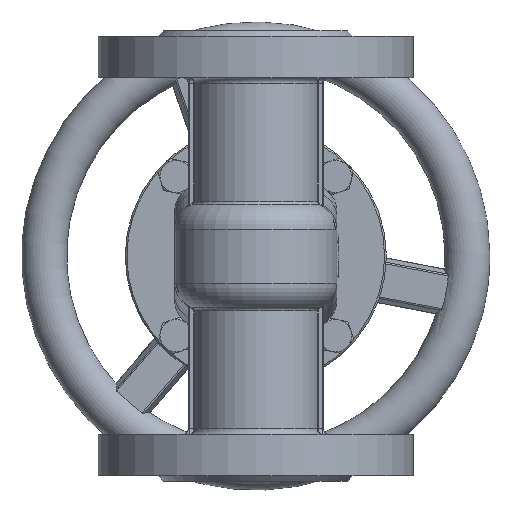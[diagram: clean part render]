
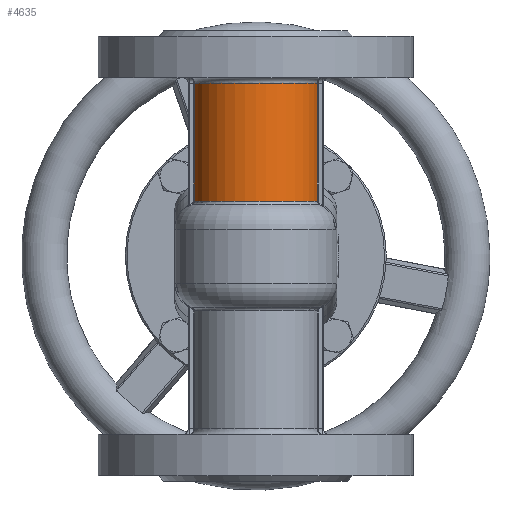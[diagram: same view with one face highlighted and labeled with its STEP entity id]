
A CAD part, front view. The second image highlights one B-rep face of the part: STEP entity #4635.
In plain terms, the highlighted cylindrical face has radius 35 mm (diameter 70 mm), a partial arc.
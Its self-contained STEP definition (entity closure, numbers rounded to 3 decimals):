
#4635=ADVANCED_FACE('',(#12416),#12418,.T.);
#12416=FACE_BOUND('',#12417,.T.);
#12417=EDGE_LOOP('',(#18521,#18522,#18523,#18524));
#12418=CYLINDRICAL_SURFACE('',#12419,35.);
#12419=AXIS2_PLACEMENT_3D('',#12420,#12421,#12422);
#12420=CARTESIAN_POINT('',(0.,0.,74.));
#12421=DIRECTION('',(0.,0.,1.));
#12422=DIRECTION('',(1.,0.,0.));
#18521=ORIENTED_EDGE('',*,*,#20491,.T.);
#18522=ORIENTED_EDGE('',*,*,#20492,.F.);
#18523=ORIENTED_EDGE('',*,*,#20353,.T.);
#18524=ORIENTED_EDGE('',*,*,#20493,.T.);
#20353=EDGE_CURVE('',#23141,#23143,#23145,.T.);
#20491=EDGE_CURVE('',#23358,#23359,#23360,.F.);
#20492=EDGE_CURVE('',#23141,#23359,#23361,.T.);
#20493=EDGE_CURVE('',#23143,#23358,#23362,.T.);
#23141=VERTEX_POINT('',#42386);
#23143=VERTEX_POINT('',#42403);
#23145=CIRCLE('',#42420,35.);
#23358=VERTEX_POINT('',#43820);
#23359=VERTEX_POINT('',#43821);
#23360=CIRCLE('',#43822,35.);
#23361=LINE('',#43826,#43827);
#23362=LINE('',#43829,#43830);
#42386=CARTESIAN_POINT('',(-34.1,-7.887,30.492));
#42403=CARTESIAN_POINT('',(34.1,-7.887,30.492));
#42420=AXIS2_PLACEMENT_3D('',#42421,#42422,#42423);
#42421=CARTESIAN_POINT('',(0.,0.,30.492));
#42422=DIRECTION('',(0.,0.,1.));
#42423=DIRECTION('',(-0.974,-0.225,0.));
#43820=CARTESIAN_POINT('',(34.1,-7.887,96.));
#43821=CARTESIAN_POINT('',(-34.1,-7.887,96.));
#43822=AXIS2_PLACEMENT_3D('',#43823,#43824,#43825);
#43823=CARTESIAN_POINT('',(0.,0.,96.));
#43824=DIRECTION('',(0.,0.,1.));
#43825=DIRECTION('',(-0.974,-0.225,0.));
#43826=CARTESIAN_POINT('',(-34.1,-7.887,30.492));
#43827=VECTOR('',#43828,1.);
#43828=DIRECTION('',(0.,0.,1.));
#43829=CARTESIAN_POINT('',(34.1,-7.887,30.492));
#43830=VECTOR('',#43831,1.);
#43831=DIRECTION('',(0.,0.,1.));
